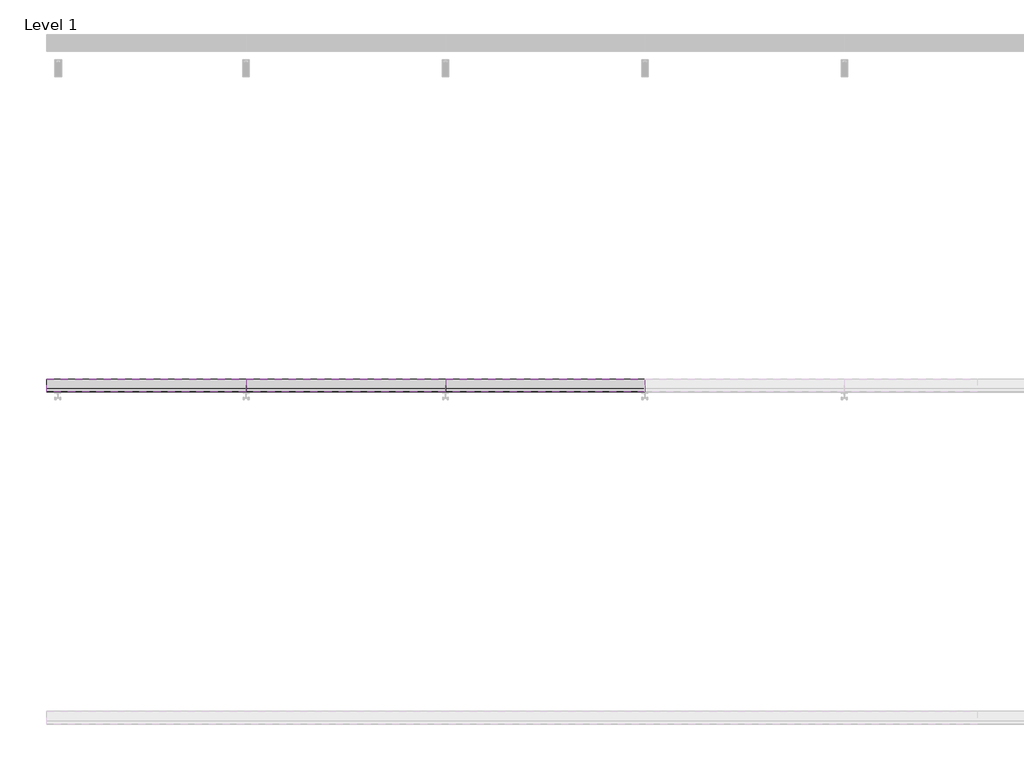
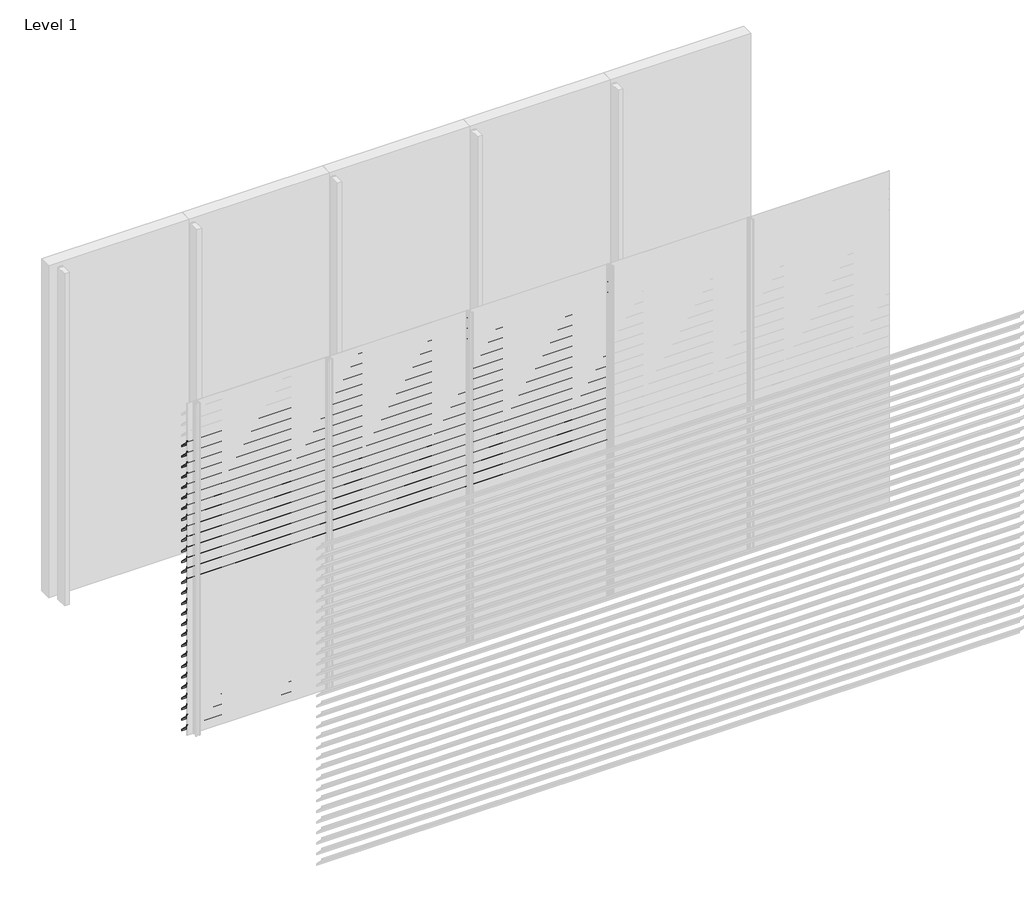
# One storey, part 8 of 24: 89 proxies.
"""IFC4 building model written with IfcOpenShell, lengths in millimetres."""

from ifc_helpers import new_model, si_unit, frame, origin, place, context, project, spatial, polyline, outline, extrude, element, save

model = new_model("IFC4")

# Units and contexts
model_context = context("Model", 3, world=origin())
ifc_project = project(units=[si_unit("LENGTHUNIT", "METRE", prefix="MILLI")], contexts=[model_context])

# Site, building, storey
site = spatial("IfcSite", under=ifc_project)
building = spatial("IfcBuilding", under=site)
storey = spatial("IfcBuildingStorey", under=building, Name="Level 1", Elevation=0.0)

# Proxies
placement = place(None, origin())
element("IfcBuildingElementProxy", 1, Name="Wall Sweeps", at=placement, inside=storey, context=model_context, shape_type="SweptSolid", body=[
    extrude(outline(polyline([(-41920.8, 2557.9), (-41922.3, 2557.9), (-41922.3, 2570.1762333), (-41998.0, 2645.4561238), (-41998.0, 2660.0), (-41996.5, 2660.0), (-41996.5, 2646.0798905), (-41920.8, 2570.8), (-41920.8, 2557.9)])), frame((0.0, 0.0, 0.0), z_axis=(1.0, 0.0, 0.0), x_axis=(0.0, 1.0, 0.0)), (0.0, 0.0, 1.0), 1200.0),
])
element("IfcBuildingElementProxy", 2, Name="Wall Sweeps", at=placement, inside=storey, context=model_context, shape_type="SweptSolid", body=[
    extrude(outline(polyline([(-41920.8, 2462.9), (-41922.3, 2462.9), (-41922.3, 2475.1762333), (-41998.0, 2550.4561238), (-41998.0, 2565.0), (-41996.5, 2565.0), (-41996.5, 2551.0798905), (-41920.8, 2475.8), (-41920.8, 2462.9)])), frame((0.0, 0.0, 0.0), z_axis=(1.0, 0.0, 0.0), x_axis=(0.0, 1.0, 0.0)), (0.0, 0.0, 1.0), 1200.0),
])
element("IfcBuildingElementProxy", 3, Name="Wall Sweeps", at=placement, inside=storey, context=model_context, shape_type="SweptSolid", body=[
    extrude(outline(polyline([(-41920.8, 2367.9), (-41922.3, 2367.9), (-41922.3, 2380.1762333), (-41998.0, 2455.4561238), (-41998.0, 2470.0), (-41996.5, 2470.0), (-41996.5, 2456.0798905), (-41920.8, 2380.8), (-41920.8, 2367.9)])), frame((0.0, 0.0, 0.0), z_axis=(1.0, 0.0, 0.0), x_axis=(0.0, 1.0, 0.0)), (0.0, 0.0, 1.0), 1200.0),
])
element("IfcBuildingElementProxy", 4, Name="Wall Sweeps", at=placement, inside=storey, context=model_context, shape_type="SweptSolid", body=[
    extrude(outline(polyline([(-41920.8, 2272.9), (-41922.3, 2272.9), (-41922.3, 2285.1762333), (-41998.0, 2360.4561238), (-41998.0, 2375.0), (-41996.5, 2375.0), (-41996.5, 2361.0798905), (-41920.8, 2285.8), (-41920.8, 2272.9)])), frame((0.0, 0.0, 0.0), z_axis=(1.0, 0.0, 0.0), x_axis=(0.0, 1.0, 0.0)), (0.0, 0.0, 1.0), 1200.0),
])
element("IfcBuildingElementProxy", 5, Name="Wall Sweeps", at=placement, inside=storey, context=model_context, shape_type="SweptSolid", body=[
    extrude(outline(polyline([(-41920.8, 2177.9), (-41922.3, 2177.9), (-41922.3, 2190.1762333), (-41998.0, 2265.4561238), (-41998.0, 2280.0), (-41996.5, 2280.0), (-41996.5, 2266.0798905), (-41920.8, 2190.8), (-41920.8, 2177.9)])), frame((0.0, 0.0, 0.0), z_axis=(1.0, 0.0, 0.0), x_axis=(0.0, 1.0, 0.0)), (0.0, 0.0, 1.0), 1200.0),
])
element("IfcBuildingElementProxy", 6, Name="Wall Sweeps", at=placement, inside=storey, context=model_context, shape_type="SweptSolid", body=[
    extrude(outline(polyline([(-41920.8, 2082.9), (-41922.3, 2082.9), (-41922.3, 2095.1762333), (-41998.0, 2170.4561238), (-41998.0, 2185.0), (-41996.5, 2185.0), (-41996.5, 2171.0798905), (-41920.8, 2095.8), (-41920.8, 2082.9)])), frame((0.0, 0.0, 0.0), z_axis=(1.0, 0.0, 0.0), x_axis=(0.0, 1.0, 0.0)), (0.0, 0.0, 1.0), 1200.0),
])
element("IfcBuildingElementProxy", 7, Name="Wall Sweeps", at=placement, inside=storey, context=model_context, shape_type="SweptSolid", body=[
    extrude(outline(polyline([(-41920.8, 1987.9), (-41922.3, 1987.9), (-41922.3, 2000.1762333), (-41998.0, 2075.4561238), (-41998.0, 2090.0), (-41996.5, 2090.0), (-41996.5, 2076.0798905), (-41920.8, 2000.8), (-41920.8, 1987.9)])), frame((0.0, 0.0, 0.0), z_axis=(1.0, 0.0, 0.0), x_axis=(0.0, 1.0, 0.0)), (0.0, 0.0, 1.0), 1200.0),
])
element("IfcBuildingElementProxy", 8, Name="Wall Sweeps", at=placement, inside=storey, context=model_context, shape_type="SweptSolid", body=[
    extrude(outline(polyline([(-41920.8, 1892.9), (-41922.3, 1892.9), (-41922.3, 1905.1762333), (-41998.0, 1980.4561238), (-41998.0, 1995.0), (-41996.5, 1995.0), (-41996.5, 1981.0798905), (-41920.8, 1905.8), (-41920.8, 1892.9)])), frame((0.0, 0.0, 0.0), z_axis=(1.0, 0.0, 0.0), x_axis=(0.0, 1.0, 0.0)), (0.0, 0.0, 1.0), 1200.0),
])
element("IfcBuildingElementProxy", 9, Name="Wall Sweeps", at=placement, inside=storey, context=model_context, shape_type="SweptSolid", body=[
    extrude(outline(polyline([(-41920.8, 1797.9), (-41922.3, 1797.9), (-41922.3, 1810.1762333), (-41998.0, 1885.4561238), (-41998.0, 1900.0), (-41996.5, 1900.0), (-41996.5, 1886.0798905), (-41920.8, 1810.8), (-41920.8, 1797.9)])), frame((0.0, 0.0, 0.0), z_axis=(1.0, 0.0, 0.0), x_axis=(0.0, 1.0, 0.0)), (0.0, 0.0, 1.0), 1200.0),
])
element("IfcBuildingElementProxy", 10, Name="Wall Sweeps", at=placement, inside=storey, context=model_context, shape_type="SweptSolid", body=[
    extrude(outline(polyline([(-41920.8, 1702.9), (-41922.3, 1702.9), (-41922.3, 1715.1762333), (-41998.0, 1790.4561238), (-41998.0, 1805.0), (-41996.5, 1805.0), (-41996.5, 1791.0798905), (-41920.8, 1715.8), (-41920.8, 1702.9)])), frame((0.0, 0.0, 0.0), z_axis=(1.0, 0.0, 0.0), x_axis=(0.0, 1.0, 0.0)), (0.0, 0.0, 1.0), 1200.0),
])
element("IfcBuildingElementProxy", 11, Name="Wall Sweeps", at=placement, inside=storey, context=model_context, shape_type="SweptSolid", body=[
    extrude(outline(polyline([(-41920.8, 1607.9), (-41922.3, 1607.9), (-41922.3, 1620.1762333), (-41998.0, 1695.4561238), (-41998.0, 1710.0), (-41996.5, 1710.0), (-41996.5, 1696.0798905), (-41920.8, 1620.8), (-41920.8, 1607.9)])), frame((0.0, 0.0, 0.0), z_axis=(1.0, 0.0, 0.0), x_axis=(0.0, 1.0, 0.0)), (0.0, 0.0, 1.0), 1200.0),
])
element("IfcBuildingElementProxy", 12, Name="Wall Sweeps", at=placement, inside=storey, context=model_context, shape_type="SweptSolid", body=[
    extrude(outline(polyline([(-41920.8, 1512.9), (-41922.3, 1512.9), (-41922.3, 1525.1762333), (-41998.0, 1600.4561238), (-41998.0, 1615.0), (-41996.5, 1615.0), (-41996.5, 1601.0798905), (-41920.8, 1525.8), (-41920.8, 1512.9)])), frame((0.0, 0.0, 0.0), z_axis=(1.0, 0.0, 0.0), x_axis=(0.0, 1.0, 0.0)), (0.0, 0.0, 1.0), 1200.0),
])
element("IfcBuildingElementProxy", 13, Name="Wall Sweeps", at=placement, inside=storey, context=model_context, shape_type="SweptSolid", body=[
    extrude(outline(polyline([(-41920.8, 1417.9), (-41922.3, 1417.9), (-41922.3, 1430.1762333), (-41998.0, 1505.4561238), (-41998.0, 1520.0), (-41996.5, 1520.0), (-41996.5, 1506.0798905), (-41920.8, 1430.8), (-41920.8, 1417.9)])), frame((0.0, 0.0, 0.0), z_axis=(1.0, 0.0, 0.0), x_axis=(0.0, 1.0, 0.0)), (0.0, 0.0, 1.0), 1200.0),
])
element("IfcBuildingElementProxy", 14, Name="Wall Sweeps", at=placement, inside=storey, context=model_context, shape_type="SweptSolid", body=[
    extrude(outline(polyline([(-41920.8, 1322.9), (-41922.3, 1322.9), (-41922.3, 1335.1762333), (-41998.0, 1410.4561238), (-41998.0, 1425.0), (-41996.5, 1425.0), (-41996.5, 1411.0798905), (-41920.8, 1335.8), (-41920.8, 1322.9)])), frame((0.0, 0.0, 0.0), z_axis=(1.0, 0.0, 0.0), x_axis=(0.0, 1.0, 0.0)), (0.0, 0.0, 1.0), 1200.0),
])
element("IfcBuildingElementProxy", 15, Name="Wall Sweeps", at=placement, inside=storey, context=model_context, shape_type="SweptSolid", body=[
    extrude(outline(polyline([(-41920.8, 1227.9), (-41922.3, 1227.9), (-41922.3, 1240.1762333), (-41998.0, 1315.4561238), (-41998.0, 1330.0), (-41996.5, 1330.0), (-41996.5, 1316.0798905), (-41920.8, 1240.8), (-41920.8, 1227.9)])), frame((0.0, 0.0, 0.0), z_axis=(1.0, 0.0, 0.0), x_axis=(0.0, 1.0, 0.0)), (0.0, 0.0, 1.0), 1200.0),
])
element("IfcBuildingElementProxy", 16, Name="Wall Sweeps", at=placement, inside=storey, context=model_context, shape_type="SweptSolid", body=[
    extrude(outline(polyline([(-41920.8, 1132.9), (-41922.3, 1132.9), (-41922.3, 1145.1762333), (-41998.0, 1220.4561238), (-41998.0, 1235.0), (-41996.5, 1235.0), (-41996.5, 1221.0798905), (-41920.8, 1145.8), (-41920.8, 1132.9)])), frame((0.0, 0.0, 0.0), z_axis=(1.0, 0.0, 0.0), x_axis=(0.0, 1.0, 0.0)), (0.0, 0.0, 1.0), 1200.0),
])
element("IfcBuildingElementProxy", 17, Name="Wall Sweeps", at=placement, inside=storey, context=model_context, shape_type="SweptSolid", body=[
    extrude(outline(polyline([(-41920.8, 1037.9), (-41922.3, 1037.9), (-41922.3, 1050.1762333), (-41998.0, 1125.4561238), (-41998.0, 1140.0), (-41996.5, 1140.0), (-41996.5, 1126.0798905), (-41920.8, 1050.8), (-41920.8, 1037.9)])), frame((0.0, 0.0, 0.0), z_axis=(1.0, 0.0, 0.0), x_axis=(0.0, 1.0, 0.0)), (0.0, 0.0, 1.0), 1200.0),
])
element("IfcBuildingElementProxy", 18, Name="Wall Sweeps", at=placement, inside=storey, context=model_context, shape_type="SweptSolid", body=[
    extrude(outline(polyline([(-41920.8, 942.9), (-41922.3, 942.9), (-41922.3, 955.1762333), (-41998.0, 1030.4561238), (-41998.0, 1045.0), (-41996.5, 1045.0), (-41996.5, 1031.0798905), (-41920.8, 955.8), (-41920.8, 942.9)])), frame((0.0, 0.0, 0.0), z_axis=(1.0, 0.0, 0.0), x_axis=(0.0, 1.0, 0.0)), (0.0, 0.0, 1.0), 1200.0),
])
element("IfcBuildingElementProxy", 19, Name="Wall Sweeps", at=placement, inside=storey, context=model_context, shape_type="SweptSolid", body=[
    extrude(outline(polyline([(-41920.8, 847.9), (-41922.3, 847.9), (-41922.3, 860.1762333), (-41998.0, 935.4561238), (-41998.0, 950.0), (-41996.5, 950.0), (-41996.5, 936.0798905), (-41920.8, 860.8), (-41920.8, 847.9)])), frame((0.0, 0.0, 0.0), z_axis=(1.0, 0.0, 0.0), x_axis=(0.0, 1.0, 0.0)), (0.0, 0.0, 1.0), 1200.0),
])
element("IfcBuildingElementProxy", 20, Name="Wall Sweeps", at=placement, inside=storey, context=model_context, shape_type="SweptSolid", body=[
    extrude(outline(polyline([(-41920.8, 752.9), (-41922.3, 752.9), (-41922.3, 765.1762333), (-41998.0, 840.4561238), (-41998.0, 855.0), (-41996.5, 855.0), (-41996.5, 841.0798905), (-41920.8, 765.8), (-41920.8, 752.9)])), frame((0.0, 0.0, 0.0), z_axis=(1.0, 0.0, 0.0), x_axis=(0.0, 1.0, 0.0)), (0.0, 0.0, 1.0), 1200.0),
])
element("IfcBuildingElementProxy", 21, Name="Wall Sweeps", at=placement, inside=storey, context=model_context, shape_type="SweptSolid", body=[
    extrude(outline(polyline([(-41920.8, 657.9), (-41922.3, 657.9), (-41922.3, 670.1762333), (-41998.0, 745.4561238), (-41998.0, 760.0), (-41996.5, 760.0), (-41996.5, 746.0798905), (-41920.8, 670.8), (-41920.8, 657.9)])), frame((0.0, 0.0, 0.0), z_axis=(1.0, 0.0, 0.0), x_axis=(0.0, 1.0, 0.0)), (0.0, 0.0, 1.0), 1200.0),
])
element("IfcBuildingElementProxy", 22, Name="Wall Sweeps", at=placement, inside=storey, context=model_context, shape_type="SweptSolid", body=[
    extrude(outline(polyline([(-41920.8, 562.9), (-41922.3, 562.9), (-41922.3, 575.1762333), (-41998.0, 650.4561238), (-41998.0, 665.0), (-41996.5, 665.0), (-41996.5, 651.0798905), (-41920.8, 575.8), (-41920.8, 562.9)])), frame((0.0, 0.0, 0.0), z_axis=(1.0, 0.0, 0.0), x_axis=(0.0, 1.0, 0.0)), (0.0, 0.0, 1.0), 1200.0),
])
element("IfcBuildingElementProxy", 23, Name="Wall Sweeps", at=placement, inside=storey, context=model_context, shape_type="SweptSolid", body=[
    extrude(outline(polyline([(-41920.8, 467.9), (-41922.3, 467.9), (-41922.3, 480.1762333), (-41998.0, 555.4561238), (-41998.0, 570.0), (-41996.5, 570.0), (-41996.5, 556.0798905), (-41920.8, 480.8), (-41920.8, 467.9)])), frame((0.0, 0.0, 0.0), z_axis=(1.0, 0.0, 0.0), x_axis=(0.0, 1.0, 0.0)), (0.0, 0.0, 1.0), 1200.0),
])
element("IfcBuildingElementProxy", 24, Name="Wall Sweeps", at=placement, inside=storey, context=model_context, shape_type="SweptSolid", body=[
    extrude(outline(polyline([(-41920.8, 372.9), (-41922.3, 372.9), (-41922.3, 385.1762333), (-41998.0, 460.4561238), (-41998.0, 475.0), (-41996.5, 475.0), (-41996.5, 461.0798905), (-41920.8, 385.8), (-41920.8, 372.9)])), frame((0.0, 0.0, 0.0), z_axis=(1.0, 0.0, 0.0), x_axis=(0.0, 1.0, 0.0)), (0.0, 0.0, 1.0), 1200.0),
])
element("IfcBuildingElementProxy", 25, Name="Wall Sweeps", at=placement, inside=storey, context=model_context, shape_type="SweptSolid", body=[
    extrude(outline(polyline([(-41920.8, 277.9), (-41922.3, 277.9), (-41922.3, 290.1762333), (-41998.0, 365.4561238), (-41998.0, 380.0), (-41996.5, 380.0), (-41996.5, 366.0798905), (-41920.8, 290.8), (-41920.8, 277.9)])), frame((0.0, 0.0, 0.0), z_axis=(1.0, 0.0, 0.0), x_axis=(0.0, 1.0, 0.0)), (0.0, 0.0, 1.0), 1200.0),
])
element("IfcBuildingElementProxy", 26, Name="Wall Sweeps", at=placement, inside=storey, context=model_context, shape_type="SweptSolid", body=[
    extrude(outline(polyline([(-41920.8, 182.9), (-41922.3, 182.9), (-41922.3, 195.1762333), (-41998.0, 270.4561238), (-41998.0, 285.0), (-41996.5, 285.0), (-41996.5, 271.0798905), (-41920.8, 195.8), (-41920.8, 182.9)])), frame((0.0, 0.0, 0.0), z_axis=(1.0, 0.0, 0.0), x_axis=(0.0, 1.0, 0.0)), (0.0, 0.0, 1.0), 1200.0),
])
element("IfcBuildingElementProxy", 27, Name="Wall Sweeps", at=placement, inside=storey, context=model_context, shape_type="SweptSolid", body=[
    extrude(outline(polyline([(-41920.8, 87.9), (-41922.3, 87.9), (-41922.3, 100.1762333), (-41998.0, 175.4561238), (-41998.0, 190.0), (-41996.5, 190.0), (-41996.5, 176.0798905), (-41920.8, 100.8), (-41920.8, 87.9)])), frame((0.0, 0.0, 0.0), z_axis=(1.0, 0.0, 0.0), x_axis=(0.0, 1.0, 0.0)), (0.0, 0.0, 1.0), 1200.0),
])
element("IfcBuildingElementProxy", 28, Name="Wall Sweeps", at=placement, inside=storey, context=model_context, shape_type="SweptSolid", body=[
    extrude(outline(polyline([(-41920.8, -7.1), (-41922.3, -7.1), (-41922.3, 5.1762333), (-41998.0, 80.4561238), (-41998.0, 95.0), (-41996.5, 95.0), (-41996.5, 81.0798905), (-41920.8, 5.8), (-41920.8, -7.1)])), frame((0.0, 0.0, 0.0), z_axis=(1.0, 0.0, 0.0), x_axis=(0.0, 1.0, 0.0)), (0.0, 0.0, 1.0), 1200.0),
])
element("IfcBuildingElementProxy", 29, Name="Wall Sweeps", at=placement, inside=storey, context=model_context, shape_type="SweptSolid", body=[
    extrude(outline(polyline([(-41920.8, 2842.9), (-41922.3, 2842.9), (-41922.3, 2855.1762333), (-41998.0, 2930.4561238), (-41998.0, 2945.0), (-41996.5, 2945.0), (-41996.5, 2931.0798905), (-41920.8, 2855.8), (-41920.8, 2842.9)])), frame((1200.0, 0.0, 0.0), z_axis=(1.0, 0.0, 0.0), x_axis=(0.0, 1.0, 0.0)), (0.0, 0.0, 1.0), 1200.0),
])
element("IfcBuildingElementProxy", 30, Name="Wall Sweeps", at=placement, inside=storey, context=model_context, shape_type="SweptSolid", body=[
    extrude(outline(polyline([(-41920.8, 2747.9), (-41922.3, 2747.9), (-41922.3, 2760.1762333), (-41998.0, 2835.4561238), (-41998.0, 2850.0), (-41996.5, 2850.0), (-41996.5, 2836.0798905), (-41920.8, 2760.8), (-41920.8, 2747.9)])), frame((1200.0, 0.0, 0.0), z_axis=(1.0, 0.0, 0.0), x_axis=(0.0, 1.0, 0.0)), (0.0, 0.0, 1.0), 1200.0),
])
element("IfcBuildingElementProxy", 31, Name="Wall Sweeps", at=placement, inside=storey, context=model_context, shape_type="SweptSolid", body=[
    extrude(outline(polyline([(-41920.8, 2652.9), (-41922.3, 2652.9), (-41922.3, 2665.1762333), (-41998.0, 2740.4561238), (-41998.0, 2755.0), (-41996.5, 2755.0), (-41996.5, 2741.0798905), (-41920.8, 2665.8), (-41920.8, 2652.9)])), frame((1200.0, 0.0, 0.0), z_axis=(1.0, 0.0, 0.0), x_axis=(0.0, 1.0, 0.0)), (0.0, 0.0, 1.0), 1200.0),
])
element("IfcBuildingElementProxy", 32, Name="Wall Sweeps", at=placement, inside=storey, context=model_context, shape_type="SweptSolid", body=[
    extrude(outline(polyline([(-41920.8, 2557.9), (-41922.3, 2557.9), (-41922.3, 2570.1762333), (-41998.0, 2645.4561238), (-41998.0, 2660.0), (-41996.5, 2660.0), (-41996.5, 2646.0798905), (-41920.8, 2570.8), (-41920.8, 2557.9)])), frame((1200.0, 0.0, 0.0), z_axis=(1.0, 0.0, 0.0), x_axis=(0.0, 1.0, 0.0)), (0.0, 0.0, 1.0), 1200.0),
])
element("IfcBuildingElementProxy", 33, Name="Wall Sweeps", at=placement, inside=storey, context=model_context, shape_type="SweptSolid", body=[
    extrude(outline(polyline([(-41920.8, 2462.9), (-41922.3, 2462.9), (-41922.3, 2475.1762333), (-41998.0, 2550.4561238), (-41998.0, 2565.0), (-41996.5, 2565.0), (-41996.5, 2551.0798905), (-41920.8, 2475.8), (-41920.8, 2462.9)])), frame((1200.0, 0.0, 0.0), z_axis=(1.0, 0.0, 0.0), x_axis=(0.0, 1.0, 0.0)), (0.0, 0.0, 1.0), 1200.0),
])
element("IfcBuildingElementProxy", 34, Name="Wall Sweeps", at=placement, inside=storey, context=model_context, shape_type="SweptSolid", body=[
    extrude(outline(polyline([(-41920.8, 2367.9), (-41922.3, 2367.9), (-41922.3, 2380.1762333), (-41998.0, 2455.4561238), (-41998.0, 2470.0), (-41996.5, 2470.0), (-41996.5, 2456.0798905), (-41920.8, 2380.8), (-41920.8, 2367.9)])), frame((1200.0, 0.0, 0.0), z_axis=(1.0, 0.0, 0.0), x_axis=(0.0, 1.0, 0.0)), (0.0, 0.0, 1.0), 1200.0),
])
element("IfcBuildingElementProxy", 35, Name="Wall Sweeps", at=placement, inside=storey, context=model_context, shape_type="SweptSolid", body=[
    extrude(outline(polyline([(-41920.8, 2272.9), (-41922.3, 2272.9), (-41922.3, 2285.1762333), (-41998.0, 2360.4561238), (-41998.0, 2375.0), (-41996.5, 2375.0), (-41996.5, 2361.0798905), (-41920.8, 2285.8), (-41920.8, 2272.9)])), frame((1200.0, 0.0, 0.0), z_axis=(1.0, 0.0, 0.0), x_axis=(0.0, 1.0, 0.0)), (0.0, 0.0, 1.0), 1200.0),
])
element("IfcBuildingElementProxy", 36, Name="Wall Sweeps", at=placement, inside=storey, context=model_context, shape_type="SweptSolid", body=[
    extrude(outline(polyline([(-41920.8, 2177.9), (-41922.3, 2177.9), (-41922.3, 2190.1762333), (-41998.0, 2265.4561238), (-41998.0, 2280.0), (-41996.5, 2280.0), (-41996.5, 2266.0798905), (-41920.8, 2190.8), (-41920.8, 2177.9)])), frame((1200.0, 0.0, 0.0), z_axis=(1.0, 0.0, 0.0), x_axis=(0.0, 1.0, 0.0)), (0.0, 0.0, 1.0), 1200.0),
])
element("IfcBuildingElementProxy", 37, Name="Wall Sweeps", at=placement, inside=storey, context=model_context, shape_type="SweptSolid", body=[
    extrude(outline(polyline([(-41920.8, 2082.9), (-41922.3, 2082.9), (-41922.3, 2095.1762333), (-41998.0, 2170.4561238), (-41998.0, 2185.0), (-41996.5, 2185.0), (-41996.5, 2171.0798905), (-41920.8, 2095.8), (-41920.8, 2082.9)])), frame((1200.0, 0.0, 0.0), z_axis=(1.0, 0.0, 0.0), x_axis=(0.0, 1.0, 0.0)), (0.0, 0.0, 1.0), 1200.0),
])
element("IfcBuildingElementProxy", 38, Name="Wall Sweeps", at=placement, inside=storey, context=model_context, shape_type="SweptSolid", body=[
    extrude(outline(polyline([(-41920.8, 1987.9), (-41922.3, 1987.9), (-41922.3, 2000.1762333), (-41998.0, 2075.4561238), (-41998.0, 2090.0), (-41996.5, 2090.0), (-41996.5, 2076.0798905), (-41920.8, 2000.8), (-41920.8, 1987.9)])), frame((1200.0, 0.0, 0.0), z_axis=(1.0, 0.0, 0.0), x_axis=(0.0, 1.0, 0.0)), (0.0, 0.0, 1.0), 1200.0),
])
element("IfcBuildingElementProxy", 39, Name="Wall Sweeps", at=placement, inside=storey, context=model_context, shape_type="SweptSolid", body=[
    extrude(outline(polyline([(-41920.8, 1892.9), (-41922.3, 1892.9), (-41922.3, 1905.1762333), (-41998.0, 1980.4561238), (-41998.0, 1995.0), (-41996.5, 1995.0), (-41996.5, 1981.0798905), (-41920.8, 1905.8), (-41920.8, 1892.9)])), frame((1200.0, 0.0, 0.0), z_axis=(1.0, 0.0, 0.0), x_axis=(0.0, 1.0, 0.0)), (0.0, 0.0, 1.0), 1200.0),
])
element("IfcBuildingElementProxy", 40, Name="Wall Sweeps", at=placement, inside=storey, context=model_context, shape_type="SweptSolid", body=[
    extrude(outline(polyline([(-41920.8, 1797.9), (-41922.3, 1797.9), (-41922.3, 1810.1762333), (-41998.0, 1885.4561238), (-41998.0, 1900.0), (-41996.5, 1900.0), (-41996.5, 1886.0798905), (-41920.8, 1810.8), (-41920.8, 1797.9)])), frame((1200.0, 0.0, 0.0), z_axis=(1.0, 0.0, 0.0), x_axis=(0.0, 1.0, 0.0)), (0.0, 0.0, 1.0), 1200.0),
])
element("IfcBuildingElementProxy", 41, Name="Wall Sweeps", at=placement, inside=storey, context=model_context, shape_type="SweptSolid", body=[
    extrude(outline(polyline([(-41920.8, 1702.9), (-41922.3, 1702.9), (-41922.3, 1715.1762333), (-41998.0, 1790.4561238), (-41998.0, 1805.0), (-41996.5, 1805.0), (-41996.5, 1791.0798905), (-41920.8, 1715.8), (-41920.8, 1702.9)])), frame((1200.0, 0.0, 0.0), z_axis=(1.0, 0.0, 0.0), x_axis=(0.0, 1.0, 0.0)), (0.0, 0.0, 1.0), 1200.0),
])
element("IfcBuildingElementProxy", 42, Name="Wall Sweeps", at=placement, inside=storey, context=model_context, shape_type="SweptSolid", body=[
    extrude(outline(polyline([(-41920.8, 1607.9), (-41922.3, 1607.9), (-41922.3, 1620.1762333), (-41998.0, 1695.4561238), (-41998.0, 1710.0), (-41996.5, 1710.0), (-41996.5, 1696.0798905), (-41920.8, 1620.8), (-41920.8, 1607.9)])), frame((1200.0, 0.0, 0.0), z_axis=(1.0, 0.0, 0.0), x_axis=(0.0, 1.0, 0.0)), (0.0, 0.0, 1.0), 1200.0),
])
element("IfcBuildingElementProxy", 43, Name="Wall Sweeps", at=placement, inside=storey, context=model_context, shape_type="SweptSolid", body=[
    extrude(outline(polyline([(-41920.8, 1512.9), (-41922.3, 1512.9), (-41922.3, 1525.1762333), (-41998.0, 1600.4561238), (-41998.0, 1615.0), (-41996.5, 1615.0), (-41996.5, 1601.0798905), (-41920.8, 1525.8), (-41920.8, 1512.9)])), frame((1200.0, 0.0, 0.0), z_axis=(1.0, 0.0, 0.0), x_axis=(0.0, 1.0, 0.0)), (0.0, 0.0, 1.0), 1200.0),
])
element("IfcBuildingElementProxy", 44, Name="Wall Sweeps", at=placement, inside=storey, context=model_context, shape_type="SweptSolid", body=[
    extrude(outline(polyline([(-41920.8, 1417.9), (-41922.3, 1417.9), (-41922.3, 1430.1762333), (-41998.0, 1505.4561238), (-41998.0, 1520.0), (-41996.5, 1520.0), (-41996.5, 1506.0798905), (-41920.8, 1430.8), (-41920.8, 1417.9)])), frame((1200.0, 0.0, 0.0), z_axis=(1.0, 0.0, 0.0), x_axis=(0.0, 1.0, 0.0)), (0.0, 0.0, 1.0), 1200.0),
])
element("IfcBuildingElementProxy", 45, Name="Wall Sweeps", at=placement, inside=storey, context=model_context, shape_type="SweptSolid", body=[
    extrude(outline(polyline([(-41920.8, 1322.9), (-41922.3, 1322.9), (-41922.3, 1335.1762333), (-41998.0, 1410.4561238), (-41998.0, 1425.0), (-41996.5, 1425.0), (-41996.5, 1411.0798905), (-41920.8, 1335.8), (-41920.8, 1322.9)])), frame((1200.0, 0.0, 0.0), z_axis=(1.0, 0.0, 0.0), x_axis=(0.0, 1.0, 0.0)), (0.0, 0.0, 1.0), 1200.0),
])
element("IfcBuildingElementProxy", 46, Name="Wall Sweeps", at=placement, inside=storey, context=model_context, shape_type="SweptSolid", body=[
    extrude(outline(polyline([(-41920.8, 1227.9), (-41922.3, 1227.9), (-41922.3, 1240.1762333), (-41998.0, 1315.4561238), (-41998.0, 1330.0), (-41996.5, 1330.0), (-41996.5, 1316.0798905), (-41920.8, 1240.8), (-41920.8, 1227.9)])), frame((1200.0, 0.0, 0.0), z_axis=(1.0, 0.0, 0.0), x_axis=(0.0, 1.0, 0.0)), (0.0, 0.0, 1.0), 1200.0),
])
element("IfcBuildingElementProxy", 47, Name="Wall Sweeps", at=placement, inside=storey, context=model_context, shape_type="SweptSolid", body=[
    extrude(outline(polyline([(-41920.8, 1132.9), (-41922.3, 1132.9), (-41922.3, 1145.1762333), (-41998.0, 1220.4561238), (-41998.0, 1235.0), (-41996.5, 1235.0), (-41996.5, 1221.0798905), (-41920.8, 1145.8), (-41920.8, 1132.9)])), frame((1200.0, 0.0, 0.0), z_axis=(1.0, 0.0, 0.0), x_axis=(0.0, 1.0, 0.0)), (0.0, 0.0, 1.0), 1200.0),
])
element("IfcBuildingElementProxy", 48, Name="Wall Sweeps", at=placement, inside=storey, context=model_context, shape_type="SweptSolid", body=[
    extrude(outline(polyline([(-41920.8, 1037.9), (-41922.3, 1037.9), (-41922.3, 1050.1762333), (-41998.0, 1125.4561238), (-41998.0, 1140.0), (-41996.5, 1140.0), (-41996.5, 1126.0798905), (-41920.8, 1050.8), (-41920.8, 1037.9)])), frame((1200.0, 0.0, 0.0), z_axis=(1.0, 0.0, 0.0), x_axis=(0.0, 1.0, 0.0)), (0.0, 0.0, 1.0), 1200.0),
])
element("IfcBuildingElementProxy", 49, Name="Wall Sweeps", at=placement, inside=storey, context=model_context, shape_type="SweptSolid", body=[
    extrude(outline(polyline([(-41920.8, 942.9), (-41922.3, 942.9), (-41922.3, 955.1762333), (-41998.0, 1030.4561238), (-41998.0, 1045.0), (-41996.5, 1045.0), (-41996.5, 1031.0798905), (-41920.8, 955.8), (-41920.8, 942.9)])), frame((1200.0, 0.0, 0.0), z_axis=(1.0, 0.0, 0.0), x_axis=(0.0, 1.0, 0.0)), (0.0, 0.0, 1.0), 1200.0),
])
element("IfcBuildingElementProxy", 50, Name="Wall Sweeps", at=placement, inside=storey, context=model_context, shape_type="SweptSolid", body=[
    extrude(outline(polyline([(-41920.8, 847.9), (-41922.3, 847.9), (-41922.3, 860.1762333), (-41998.0, 935.4561238), (-41998.0, 950.0), (-41996.5, 950.0), (-41996.5, 936.0798905), (-41920.8, 860.8), (-41920.8, 847.9)])), frame((1200.0, 0.0, 0.0), z_axis=(1.0, 0.0, 0.0), x_axis=(0.0, 1.0, 0.0)), (0.0, 0.0, 1.0), 1200.0),
])
element("IfcBuildingElementProxy", 51, Name="Wall Sweeps", at=placement, inside=storey, context=model_context, shape_type="SweptSolid", body=[
    extrude(outline(polyline([(-41920.8, 752.9), (-41922.3, 752.9), (-41922.3, 765.1762333), (-41998.0, 840.4561238), (-41998.0, 855.0), (-41996.5, 855.0), (-41996.5, 841.0798905), (-41920.8, 765.8), (-41920.8, 752.9)])), frame((1200.0, 0.0, 0.0), z_axis=(1.0, 0.0, 0.0), x_axis=(0.0, 1.0, 0.0)), (0.0, 0.0, 1.0), 1200.0),
])
element("IfcBuildingElementProxy", 52, Name="Wall Sweeps", at=placement, inside=storey, context=model_context, shape_type="SweptSolid", body=[
    extrude(outline(polyline([(-41920.8, 657.9), (-41922.3, 657.9), (-41922.3, 670.1762333), (-41998.0, 745.4561238), (-41998.0, 760.0), (-41996.5, 760.0), (-41996.5, 746.0798905), (-41920.8, 670.8), (-41920.8, 657.9)])), frame((1200.0, 0.0, 0.0), z_axis=(1.0, 0.0, 0.0), x_axis=(0.0, 1.0, 0.0)), (0.0, 0.0, 1.0), 1200.0),
])
element("IfcBuildingElementProxy", 53, Name="Wall Sweeps", at=placement, inside=storey, context=model_context, shape_type="SweptSolid", body=[
    extrude(outline(polyline([(-41920.8, 562.9), (-41922.3, 562.9), (-41922.3, 575.1762333), (-41998.0, 650.4561238), (-41998.0, 665.0), (-41996.5, 665.0), (-41996.5, 651.0798905), (-41920.8, 575.8), (-41920.8, 562.9)])), frame((1200.0, 0.0, 0.0), z_axis=(1.0, 0.0, 0.0), x_axis=(0.0, 1.0, 0.0)), (0.0, 0.0, 1.0), 1200.0),
])
element("IfcBuildingElementProxy", 54, Name="Wall Sweeps", at=placement, inside=storey, context=model_context, shape_type="SweptSolid", body=[
    extrude(outline(polyline([(-41920.8, 467.9), (-41922.3, 467.9), (-41922.3, 480.1762333), (-41998.0, 555.4561238), (-41998.0, 570.0), (-41996.5, 570.0), (-41996.5, 556.0798905), (-41920.8, 480.8), (-41920.8, 467.9)])), frame((1200.0, 0.0, 0.0), z_axis=(1.0, 0.0, 0.0), x_axis=(0.0, 1.0, 0.0)), (0.0, 0.0, 1.0), 1200.0),
])
element("IfcBuildingElementProxy", 55, Name="Wall Sweeps", at=placement, inside=storey, context=model_context, shape_type="SweptSolid", body=[
    extrude(outline(polyline([(-41920.8, 372.9), (-41922.3, 372.9), (-41922.3, 385.1762333), (-41998.0, 460.4561238), (-41998.0, 475.0), (-41996.5, 475.0), (-41996.5, 461.0798905), (-41920.8, 385.8), (-41920.8, 372.9)])), frame((1200.0, 0.0, 0.0), z_axis=(1.0, 0.0, 0.0), x_axis=(0.0, 1.0, 0.0)), (0.0, 0.0, 1.0), 1200.0),
])
element("IfcBuildingElementProxy", 56, Name="Wall Sweeps", at=placement, inside=storey, context=model_context, shape_type="SweptSolid", body=[
    extrude(outline(polyline([(-41920.8, 277.9), (-41922.3, 277.9), (-41922.3, 290.1762333), (-41998.0, 365.4561238), (-41998.0, 380.0), (-41996.5, 380.0), (-41996.5, 366.0798905), (-41920.8, 290.8), (-41920.8, 277.9)])), frame((1200.0, 0.0, 0.0), z_axis=(1.0, 0.0, 0.0), x_axis=(0.0, 1.0, 0.0)), (0.0, 0.0, 1.0), 1200.0),
])
element("IfcBuildingElementProxy", 57, Name="Wall Sweeps", at=placement, inside=storey, context=model_context, shape_type="SweptSolid", body=[
    extrude(outline(polyline([(-41920.8, 182.9), (-41922.3, 182.9), (-41922.3, 195.1762333), (-41998.0, 270.4561238), (-41998.0, 285.0), (-41996.5, 285.0), (-41996.5, 271.0798905), (-41920.8, 195.8), (-41920.8, 182.9)])), frame((1200.0, 0.0, 0.0), z_axis=(1.0, 0.0, 0.0), x_axis=(0.0, 1.0, 0.0)), (0.0, 0.0, 1.0), 1200.0),
])
element("IfcBuildingElementProxy", 58, Name="Wall Sweeps", at=placement, inside=storey, context=model_context, shape_type="SweptSolid", body=[
    extrude(outline(polyline([(-41920.8, 87.9), (-41922.3, 87.9), (-41922.3, 100.1762333), (-41998.0, 175.4561238), (-41998.0, 190.0), (-41996.5, 190.0), (-41996.5, 176.0798905), (-41920.8, 100.8), (-41920.8, 87.9)])), frame((1200.0, 0.0, 0.0), z_axis=(1.0, 0.0, 0.0), x_axis=(0.0, 1.0, 0.0)), (0.0, 0.0, 1.0), 1200.0),
])
element("IfcBuildingElementProxy", 59, Name="Wall Sweeps", at=placement, inside=storey, context=model_context, shape_type="SweptSolid", body=[
    extrude(outline(polyline([(-41920.8, -7.1), (-41922.3, -7.1), (-41922.3, 5.1762333), (-41998.0, 80.4561238), (-41998.0, 95.0), (-41996.5, 95.0), (-41996.5, 81.0798905), (-41920.8, 5.8), (-41920.8, -7.1)])), frame((1200.0, 0.0, 0.0), z_axis=(1.0, 0.0, 0.0), x_axis=(0.0, 1.0, 0.0)), (0.0, 0.0, 1.0), 1200.0),
])
element("IfcBuildingElementProxy", 60, Name="Wall Sweeps", at=placement, inside=storey, context=model_context, shape_type="SweptSolid", body=[
    extrude(outline(polyline([(-41920.8, 2842.9), (-41922.3, 2842.9), (-41922.3, 2855.1762333), (-41998.0, 2930.4561238), (-41998.0, 2945.0), (-41996.5, 2945.0), (-41996.5, 2931.0798905), (-41920.8, 2855.8), (-41920.8, 2842.9)])), frame((2400.0, 0.0, 0.0), z_axis=(1.0, 0.0, 0.0), x_axis=(0.0, 1.0, 0.0)), (0.0, 0.0, 1.0), 1200.0),
])
element("IfcBuildingElementProxy", 61, Name="Wall Sweeps", at=placement, inside=storey, context=model_context, shape_type="SweptSolid", body=[
    extrude(outline(polyline([(-41920.8, 2747.9), (-41922.3, 2747.9), (-41922.3, 2760.1762333), (-41998.0, 2835.4561238), (-41998.0, 2850.0), (-41996.5, 2850.0), (-41996.5, 2836.0798905), (-41920.8, 2760.8), (-41920.8, 2747.9)])), frame((2400.0, 0.0, 0.0), z_axis=(1.0, 0.0, 0.0), x_axis=(0.0, 1.0, 0.0)), (0.0, 0.0, 1.0), 1200.0),
])
element("IfcBuildingElementProxy", 62, Name="Wall Sweeps", at=placement, inside=storey, context=model_context, shape_type="SweptSolid", body=[
    extrude(outline(polyline([(-41920.8, 2652.9), (-41922.3, 2652.9), (-41922.3, 2665.1762333), (-41998.0, 2740.4561238), (-41998.0, 2755.0), (-41996.5, 2755.0), (-41996.5, 2741.0798905), (-41920.8, 2665.8), (-41920.8, 2652.9)])), frame((2400.0, 0.0, 0.0), z_axis=(1.0, 0.0, 0.0), x_axis=(0.0, 1.0, 0.0)), (0.0, 0.0, 1.0), 1200.0),
])
element("IfcBuildingElementProxy", 63, Name="Wall Sweeps", at=placement, inside=storey, context=model_context, shape_type="SweptSolid", body=[
    extrude(outline(polyline([(-41920.8, 2557.9), (-41922.3, 2557.9), (-41922.3, 2570.1762333), (-41998.0, 2645.4561238), (-41998.0, 2660.0), (-41996.5, 2660.0), (-41996.5, 2646.0798905), (-41920.8, 2570.8), (-41920.8, 2557.9)])), frame((2400.0, 0.0, 0.0), z_axis=(1.0, 0.0, 0.0), x_axis=(0.0, 1.0, 0.0)), (0.0, 0.0, 1.0), 1200.0),
])
element("IfcBuildingElementProxy", 64, Name="Wall Sweeps", at=placement, inside=storey, context=model_context, shape_type="SweptSolid", body=[
    extrude(outline(polyline([(-41920.8, 2462.9), (-41922.3, 2462.9), (-41922.3, 2475.1762333), (-41998.0, 2550.4561238), (-41998.0, 2565.0), (-41996.5, 2565.0), (-41996.5, 2551.0798905), (-41920.8, 2475.8), (-41920.8, 2462.9)])), frame((2400.0, 0.0, 0.0), z_axis=(1.0, 0.0, 0.0), x_axis=(0.0, 1.0, 0.0)), (0.0, 0.0, 1.0), 1200.0),
])
element("IfcBuildingElementProxy", 65, Name="Wall Sweeps", at=placement, inside=storey, context=model_context, shape_type="SweptSolid", body=[
    extrude(outline(polyline([(-41920.8, 2367.9), (-41922.3, 2367.9), (-41922.3, 2380.1762333), (-41998.0, 2455.4561238), (-41998.0, 2470.0), (-41996.5, 2470.0), (-41996.5, 2456.0798905), (-41920.8, 2380.8), (-41920.8, 2367.9)])), frame((2400.0, 0.0, 0.0), z_axis=(1.0, 0.0, 0.0), x_axis=(0.0, 1.0, 0.0)), (0.0, 0.0, 1.0), 1200.0),
])
element("IfcBuildingElementProxy", 66, Name="Wall Sweeps", at=placement, inside=storey, context=model_context, shape_type="SweptSolid", body=[
    extrude(outline(polyline([(-41920.8, 2272.9), (-41922.3, 2272.9), (-41922.3, 2285.1762333), (-41998.0, 2360.4561238), (-41998.0, 2375.0), (-41996.5, 2375.0), (-41996.5, 2361.0798905), (-41920.8, 2285.8), (-41920.8, 2272.9)])), frame((2400.0, 0.0, 0.0), z_axis=(1.0, 0.0, 0.0), x_axis=(0.0, 1.0, 0.0)), (0.0, 0.0, 1.0), 1200.0),
])
element("IfcBuildingElementProxy", 67, Name="Wall Sweeps", at=placement, inside=storey, context=model_context, shape_type="SweptSolid", body=[
    extrude(outline(polyline([(-41920.8, 2177.9), (-41922.3, 2177.9), (-41922.3, 2190.1762333), (-41998.0, 2265.4561238), (-41998.0, 2280.0), (-41996.5, 2280.0), (-41996.5, 2266.0798905), (-41920.8, 2190.8), (-41920.8, 2177.9)])), frame((2400.0, 0.0, 0.0), z_axis=(1.0, 0.0, 0.0), x_axis=(0.0, 1.0, 0.0)), (0.0, 0.0, 1.0), 1200.0),
])
element("IfcBuildingElementProxy", 68, Name="Wall Sweeps", at=placement, inside=storey, context=model_context, shape_type="SweptSolid", body=[
    extrude(outline(polyline([(-41920.8, 2082.9), (-41922.3, 2082.9), (-41922.3, 2095.1762333), (-41998.0, 2170.4561238), (-41998.0, 2185.0), (-41996.5, 2185.0), (-41996.5, 2171.0798905), (-41920.8, 2095.8), (-41920.8, 2082.9)])), frame((2400.0, 0.0, 0.0), z_axis=(1.0, 0.0, 0.0), x_axis=(0.0, 1.0, 0.0)), (0.0, 0.0, 1.0), 1200.0),
])
element("IfcBuildingElementProxy", 69, Name="Wall Sweeps", at=placement, inside=storey, context=model_context, shape_type="SweptSolid", body=[
    extrude(outline(polyline([(-41920.8, 1987.9), (-41922.3, 1987.9), (-41922.3, 2000.1762333), (-41998.0, 2075.4561238), (-41998.0, 2090.0), (-41996.5, 2090.0), (-41996.5, 2076.0798905), (-41920.8, 2000.8), (-41920.8, 1987.9)])), frame((2400.0, 0.0, 0.0), z_axis=(1.0, 0.0, 0.0), x_axis=(0.0, 1.0, 0.0)), (0.0, 0.0, 1.0), 1200.0),
])
element("IfcBuildingElementProxy", 70, Name="Wall Sweeps", at=placement, inside=storey, context=model_context, shape_type="SweptSolid", body=[
    extrude(outline(polyline([(-41920.8, 1892.9), (-41922.3, 1892.9), (-41922.3, 1905.1762333), (-41998.0, 1980.4561238), (-41998.0, 1995.0), (-41996.5, 1995.0), (-41996.5, 1981.0798905), (-41920.8, 1905.8), (-41920.8, 1892.9)])), frame((2400.0, 0.0, 0.0), z_axis=(1.0, 0.0, 0.0), x_axis=(0.0, 1.0, 0.0)), (0.0, 0.0, 1.0), 1200.0),
])
element("IfcBuildingElementProxy", 71, Name="Wall Sweeps", at=placement, inside=storey, context=model_context, shape_type="SweptSolid", body=[
    extrude(outline(polyline([(-41920.8, 1797.9), (-41922.3, 1797.9), (-41922.3, 1810.1762333), (-41998.0, 1885.4561238), (-41998.0, 1900.0), (-41996.5, 1900.0), (-41996.5, 1886.0798905), (-41920.8, 1810.8), (-41920.8, 1797.9)])), frame((2400.0, 0.0, 0.0), z_axis=(1.0, 0.0, 0.0), x_axis=(0.0, 1.0, 0.0)), (0.0, 0.0, 1.0), 1200.0),
])
element("IfcBuildingElementProxy", 72, Name="Wall Sweeps", at=placement, inside=storey, context=model_context, shape_type="SweptSolid", body=[
    extrude(outline(polyline([(-41920.8, 1702.9), (-41922.3, 1702.9), (-41922.3, 1715.1762333), (-41998.0, 1790.4561238), (-41998.0, 1805.0), (-41996.5, 1805.0), (-41996.5, 1791.0798905), (-41920.8, 1715.8), (-41920.8, 1702.9)])), frame((2400.0, 0.0, 0.0), z_axis=(1.0, 0.0, 0.0), x_axis=(0.0, 1.0, 0.0)), (0.0, 0.0, 1.0), 1200.0),
])
element("IfcBuildingElementProxy", 73, Name="Wall Sweeps", at=placement, inside=storey, context=model_context, shape_type="SweptSolid", body=[
    extrude(outline(polyline([(-41920.8, 1607.9), (-41922.3, 1607.9), (-41922.3, 1620.1762333), (-41998.0, 1695.4561238), (-41998.0, 1710.0), (-41996.5, 1710.0), (-41996.5, 1696.0798905), (-41920.8, 1620.8), (-41920.8, 1607.9)])), frame((2400.0, 0.0, 0.0), z_axis=(1.0, 0.0, 0.0), x_axis=(0.0, 1.0, 0.0)), (0.0, 0.0, 1.0), 1200.0),
])
element("IfcBuildingElementProxy", 74, Name="Wall Sweeps", at=placement, inside=storey, context=model_context, shape_type="SweptSolid", body=[
    extrude(outline(polyline([(-41920.8, 1512.9), (-41922.3, 1512.9), (-41922.3, 1525.1762333), (-41998.0, 1600.4561238), (-41998.0, 1615.0), (-41996.5, 1615.0), (-41996.5, 1601.0798905), (-41920.8, 1525.8), (-41920.8, 1512.9)])), frame((2400.0, 0.0, 0.0), z_axis=(1.0, 0.0, 0.0), x_axis=(0.0, 1.0, 0.0)), (0.0, 0.0, 1.0), 1200.0),
])
element("IfcBuildingElementProxy", 75, Name="Wall Sweeps", at=placement, inside=storey, context=model_context, shape_type="SweptSolid", body=[
    extrude(outline(polyline([(-41920.8, 1417.9), (-41922.3, 1417.9), (-41922.3, 1430.1762333), (-41998.0, 1505.4561238), (-41998.0, 1520.0), (-41996.5, 1520.0), (-41996.5, 1506.0798905), (-41920.8, 1430.8), (-41920.8, 1417.9)])), frame((2400.0, 0.0, 0.0), z_axis=(1.0, 0.0, 0.0), x_axis=(0.0, 1.0, 0.0)), (0.0, 0.0, 1.0), 1200.0),
])
element("IfcBuildingElementProxy", 76, Name="Wall Sweeps", at=placement, inside=storey, context=model_context, shape_type="SweptSolid", body=[
    extrude(outline(polyline([(-41920.8, 1322.9), (-41922.3, 1322.9), (-41922.3, 1335.1762333), (-41998.0, 1410.4561238), (-41998.0, 1425.0), (-41996.5, 1425.0), (-41996.5, 1411.0798905), (-41920.8, 1335.8), (-41920.8, 1322.9)])), frame((2400.0, 0.0, 0.0), z_axis=(1.0, 0.0, 0.0), x_axis=(0.0, 1.0, 0.0)), (0.0, 0.0, 1.0), 1200.0),
])
element("IfcBuildingElementProxy", 77, Name="Wall Sweeps", at=placement, inside=storey, context=model_context, shape_type="SweptSolid", body=[
    extrude(outline(polyline([(-41920.8, 1227.9), (-41922.3, 1227.9), (-41922.3, 1240.1762333), (-41998.0, 1315.4561238), (-41998.0, 1330.0), (-41996.5, 1330.0), (-41996.5, 1316.0798905), (-41920.8, 1240.8), (-41920.8, 1227.9)])), frame((2400.0, 0.0, 0.0), z_axis=(1.0, 0.0, 0.0), x_axis=(0.0, 1.0, 0.0)), (0.0, 0.0, 1.0), 1200.0),
])
element("IfcBuildingElementProxy", 78, Name="Wall Sweeps", at=placement, inside=storey, context=model_context, shape_type="SweptSolid", body=[
    extrude(outline(polyline([(-41920.8, 1132.9), (-41922.3, 1132.9), (-41922.3, 1145.1762333), (-41998.0, 1220.4561238), (-41998.0, 1235.0), (-41996.5, 1235.0), (-41996.5, 1221.0798905), (-41920.8, 1145.8), (-41920.8, 1132.9)])), frame((2400.0, 0.0, 0.0), z_axis=(1.0, 0.0, 0.0), x_axis=(0.0, 1.0, 0.0)), (0.0, 0.0, 1.0), 1200.0),
])
element("IfcBuildingElementProxy", 79, Name="Wall Sweeps", at=placement, inside=storey, context=model_context, shape_type="SweptSolid", body=[
    extrude(outline(polyline([(-41920.8, 1037.9), (-41922.3, 1037.9), (-41922.3, 1050.1762333), (-41998.0, 1125.4561238), (-41998.0, 1140.0), (-41996.5, 1140.0), (-41996.5, 1126.0798905), (-41920.8, 1050.8), (-41920.8, 1037.9)])), frame((2400.0, 0.0, 0.0), z_axis=(1.0, 0.0, 0.0), x_axis=(0.0, 1.0, 0.0)), (0.0, 0.0, 1.0), 1200.0),
])
element("IfcBuildingElementProxy", 80, Name="Wall Sweeps", at=placement, inside=storey, context=model_context, shape_type="SweptSolid", body=[
    extrude(outline(polyline([(-41920.8, 942.9), (-41922.3, 942.9), (-41922.3, 955.1762333), (-41998.0, 1030.4561238), (-41998.0, 1045.0), (-41996.5, 1045.0), (-41996.5, 1031.0798905), (-41920.8, 955.8), (-41920.8, 942.9)])), frame((2400.0, 0.0, 0.0), z_axis=(1.0, 0.0, 0.0), x_axis=(0.0, 1.0, 0.0)), (0.0, 0.0, 1.0), 1200.0),
])
element("IfcBuildingElementProxy", 81, Name="Wall Sweeps", at=placement, inside=storey, context=model_context, shape_type="SweptSolid", body=[
    extrude(outline(polyline([(-41920.8, 847.9), (-41922.3, 847.9), (-41922.3, 860.1762333), (-41998.0, 935.4561238), (-41998.0, 950.0), (-41996.5, 950.0), (-41996.5, 936.0798905), (-41920.8, 860.8), (-41920.8, 847.9)])), frame((2400.0, 0.0, 0.0), z_axis=(1.0, 0.0, 0.0), x_axis=(0.0, 1.0, 0.0)), (0.0, 0.0, 1.0), 1200.0),
])
element("IfcBuildingElementProxy", 82, Name="Wall Sweeps", at=placement, inside=storey, context=model_context, shape_type="SweptSolid", body=[
    extrude(outline(polyline([(-41920.8, 752.9), (-41922.3, 752.9), (-41922.3, 765.1762333), (-41998.0, 840.4561238), (-41998.0, 855.0), (-41996.5, 855.0), (-41996.5, 841.0798905), (-41920.8, 765.8), (-41920.8, 752.9)])), frame((2400.0, 0.0, 0.0), z_axis=(1.0, 0.0, 0.0), x_axis=(0.0, 1.0, 0.0)), (0.0, 0.0, 1.0), 1200.0),
])
element("IfcBuildingElementProxy", 83, Name="Wall Sweeps", at=placement, inside=storey, context=model_context, shape_type="SweptSolid", body=[
    extrude(outline(polyline([(-41920.8, 657.9), (-41922.3, 657.9), (-41922.3, 670.1762333), (-41998.0, 745.4561238), (-41998.0, 760.0), (-41996.5, 760.0), (-41996.5, 746.0798905), (-41920.8, 670.8), (-41920.8, 657.9)])), frame((2400.0, 0.0, 0.0), z_axis=(1.0, 0.0, 0.0), x_axis=(0.0, 1.0, 0.0)), (0.0, 0.0, 1.0), 1200.0),
])
element("IfcBuildingElementProxy", 84, Name="Wall Sweeps", at=placement, inside=storey, context=model_context, shape_type="SweptSolid", body=[
    extrude(outline(polyline([(-41920.8, 562.9), (-41922.3, 562.9), (-41922.3, 575.1762333), (-41998.0, 650.4561238), (-41998.0, 665.0), (-41996.5, 665.0), (-41996.5, 651.0798905), (-41920.8, 575.8), (-41920.8, 562.9)])), frame((2400.0, 0.0, 0.0), z_axis=(1.0, 0.0, 0.0), x_axis=(0.0, 1.0, 0.0)), (0.0, 0.0, 1.0), 1200.0),
])
element("IfcBuildingElementProxy", 85, Name="Wall Sweeps", at=placement, inside=storey, context=model_context, shape_type="SweptSolid", body=[
    extrude(outline(polyline([(-41920.8, 467.9), (-41922.3, 467.9), (-41922.3, 480.1762333), (-41998.0, 555.4561238), (-41998.0, 570.0), (-41996.5, 570.0), (-41996.5, 556.0798905), (-41920.8, 480.8), (-41920.8, 467.9)])), frame((2400.0, 0.0, 0.0), z_axis=(1.0, 0.0, 0.0), x_axis=(0.0, 1.0, 0.0)), (0.0, 0.0, 1.0), 1200.0),
])
element("IfcBuildingElementProxy", 86, Name="Wall Sweeps", at=placement, inside=storey, context=model_context, shape_type="SweptSolid", body=[
    extrude(outline(polyline([(-41920.8, 372.9), (-41922.3, 372.9), (-41922.3, 385.1762333), (-41998.0, 460.4561238), (-41998.0, 475.0), (-41996.5, 475.0), (-41996.5, 461.0798905), (-41920.8, 385.8), (-41920.8, 372.9)])), frame((2400.0, 0.0, 0.0), z_axis=(1.0, 0.0, 0.0), x_axis=(0.0, 1.0, 0.0)), (0.0, 0.0, 1.0), 1200.0),
])
element("IfcBuildingElementProxy", 87, Name="Wall Sweeps", at=placement, inside=storey, context=model_context, shape_type="SweptSolid", body=[
    extrude(outline(polyline([(-41920.8, 277.9), (-41922.3, 277.9), (-41922.3, 290.1762333), (-41998.0, 365.4561238), (-41998.0, 380.0), (-41996.5, 380.0), (-41996.5, 366.0798905), (-41920.8, 290.8), (-41920.8, 277.9)])), frame((2400.0, 0.0, 0.0), z_axis=(1.0, 0.0, 0.0), x_axis=(0.0, 1.0, 0.0)), (0.0, 0.0, 1.0), 1200.0),
])
element("IfcBuildingElementProxy", 88, Name="Wall Sweeps", at=placement, inside=storey, context=model_context, shape_type="SweptSolid", body=[
    extrude(outline(polyline([(-41920.8, 182.9), (-41922.3, 182.9), (-41922.3, 195.1762333), (-41998.0, 270.4561238), (-41998.0, 285.0), (-41996.5, 285.0), (-41996.5, 271.0798905), (-41920.8, 195.8), (-41920.8, 182.9)])), frame((2400.0, 0.0, 0.0), z_axis=(1.0, 0.0, 0.0), x_axis=(0.0, 1.0, 0.0)), (0.0, 0.0, 1.0), 1200.0),
])
element("IfcBuildingElementProxy", 89, Name="Wall Sweeps", at=placement, inside=storey, context=model_context, shape_type="SweptSolid", body=[
    extrude(outline(polyline([(-41920.8, 87.9), (-41922.3, 87.9), (-41922.3, 100.1762333), (-41998.0, 175.4561238), (-41998.0, 190.0), (-41996.5, 190.0), (-41996.5, 176.0798905), (-41920.8, 100.8), (-41920.8, 87.9)])), frame((2400.0, 0.0, 0.0), z_axis=(1.0, 0.0, 0.0), x_axis=(0.0, 1.0, 0.0)), (0.0, 0.0, 1.0), 1200.0),
])

save(model, "model.ifc")
